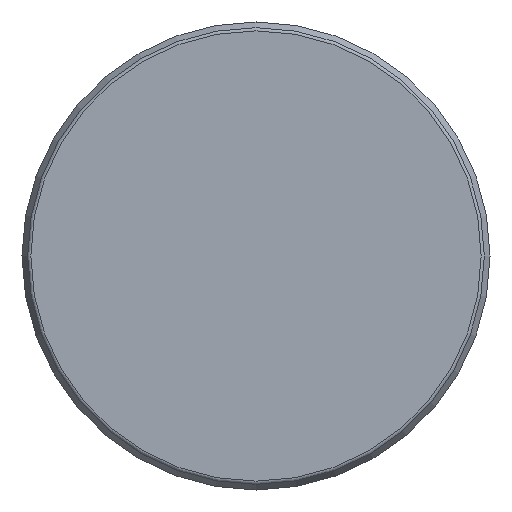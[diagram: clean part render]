
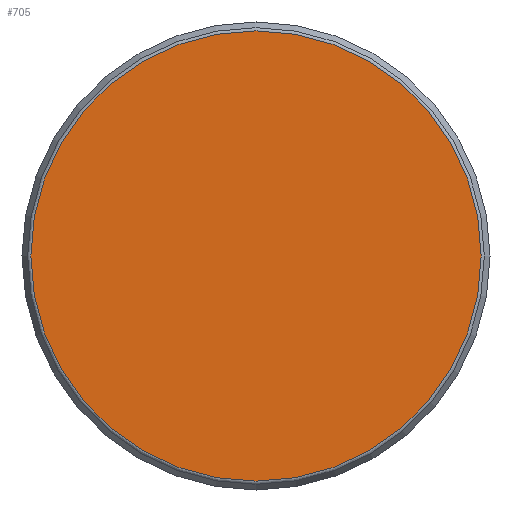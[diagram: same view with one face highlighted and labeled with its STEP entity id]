
A CAD part, front view. The second image highlights one B-rep face of the part: STEP entity #705.
In plain terms, the highlighted planar face has unit normal (0, -1, 0).
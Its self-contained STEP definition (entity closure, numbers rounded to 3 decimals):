
#91=PLANE('',#774);
#127=FACE_OUTER_BOUND('',#185,.T.);
#185=EDGE_LOOP('',(#494));
#271=CIRCLE('',#775,15.394);
#326=VERTEX_POINT('',#1113);
#397=EDGE_CURVE('',#326,#326,#271,.T.);
#494=ORIENTED_EDGE('',*,*,#397,.F.);
#705=ADVANCED_FACE('',(#127),#91,.T.);
#774=AXIS2_PLACEMENT_3D('',#1112,#891,#892);
#775=AXIS2_PLACEMENT_3D('',#1114,#893,#894);
#891=DIRECTION('center_axis',(0.,-1.,0.));
#892=DIRECTION('ref_axis',(0.,0.,-1.));
#893=DIRECTION('center_axis',(0.,1.,0.));
#894=DIRECTION('ref_axis',(0.,0.,-1.));
#1112=CARTESIAN_POINT('Origin',(0.,0.,0.));
#1113=CARTESIAN_POINT('',(0.,0.,-15.394));
#1114=CARTESIAN_POINT('Origin',(0.,0.,0.));
